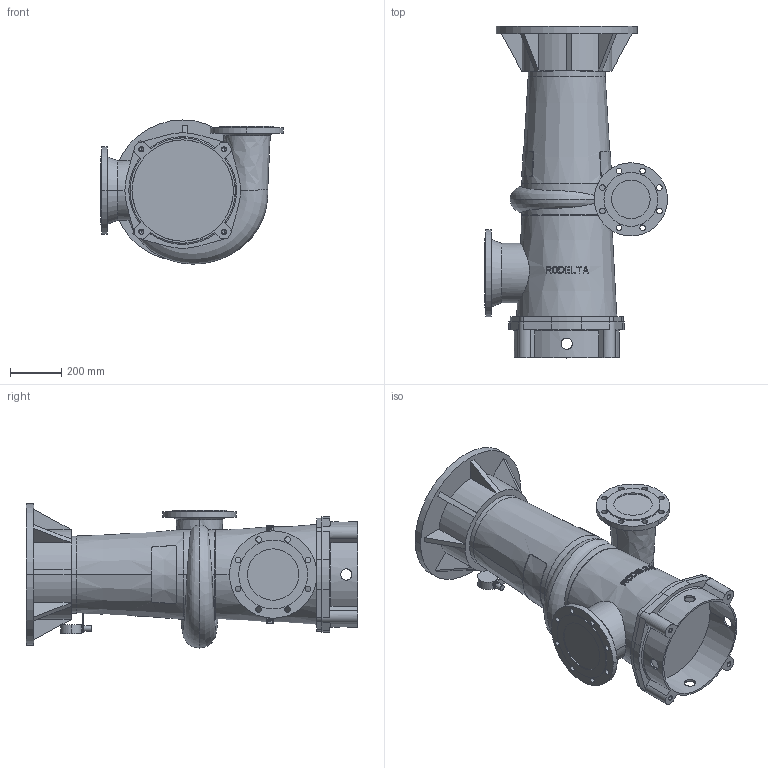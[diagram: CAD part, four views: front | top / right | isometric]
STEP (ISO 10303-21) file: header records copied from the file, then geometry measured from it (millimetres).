
FILE_DESCRIPTION((''),'2;1');
FILE_NAME('7410_VOOR_BLAD_ASM','2024-07-23T',('Lyritlocal'),(''),'PRO/ENGINEER BY PARAMETRIC TECHNOLOGY CORPORATION, 2016360','PRO/ENGINEER BY PARAMETRIC TECHNOLOGY CORPORATION, 2016360','');
FILE_SCHEMA(('CONFIG_CONTROL_DESIGN'));
Length unit declared in the file: millimetre
Products named in the file (3): 7410; 7410_VOET; 7410_VOOR_BLAD_ASM
Assembly tree (2 placements, depth 2):
  7410_VOOR_BLAD_ASM
    7410
    7410_VOET
Bounding box: 712.5 x 1292 x 561.35 mm (x, y, z)
Volume: 142858668 mm3; surface area: 3346063.5 mm2
Topology: 2 solids, 6 shells, 554 faces, 1491 edges, 983 vertices
Faces by surface type: plane 368, cylinder 138, cone 38, bspline 6, torus 4
Entity records: 19705 total; most frequent: CARTESIAN_POINT 6220, ORIENTED_EDGE 2950, DIRECTION 2529, EDGE_CURVE 1483, VERTEX_POINT 983, AXIS2_PLACEMENT_3D 961, EDGE_LOOP 646, VECTOR 607
